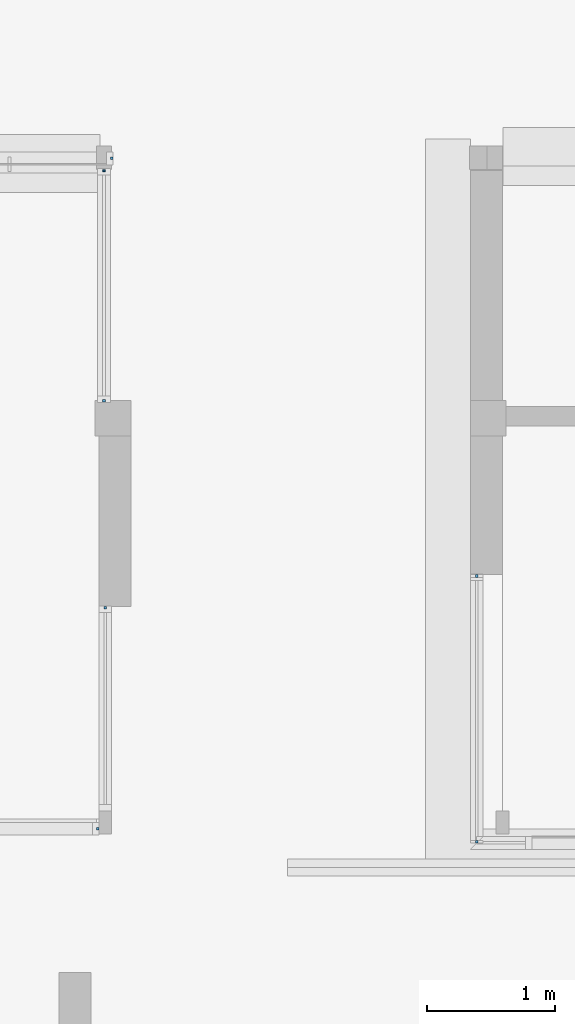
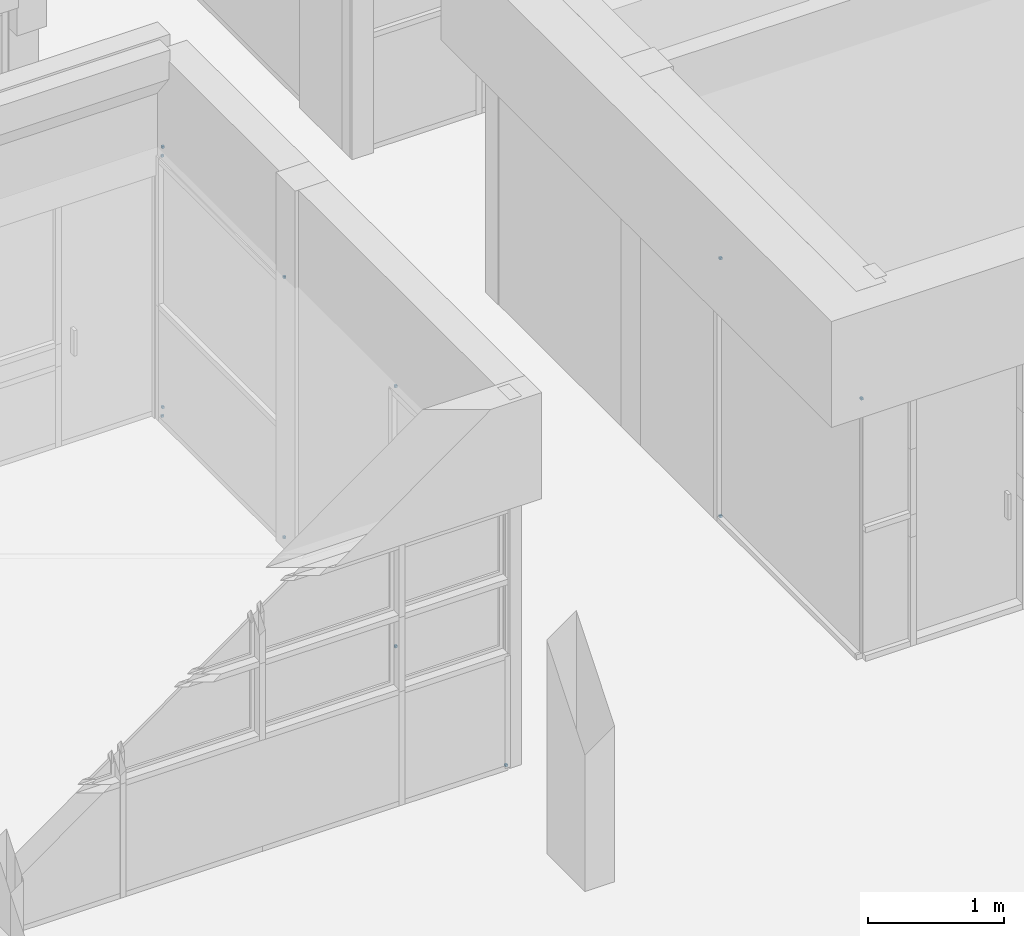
# One storey, part 55 of 117: 12 plates, 5 elements without a shape of their own.
"""IFC4 building model written with IfcOpenShell, lengths in metres."""

from ifc_helpers import new_model, entity, si_unit, converted_unit, derived_unit, direction, frame, origin, place, context, subcontext, project, spatial, indexed_curve, outline, extrude, source, transform, mapped, material, type_object, type_shapes, element, aggregate, save


model = new_model("IFC4")

# Units and contexts
model_context = context("Model", 3, precision=1e-05, world=origin(), true_north=direction((6.123031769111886e-17, 1.0)))
body_context = subcontext(model_context, "Body", "Model", "MODEL_VIEW")
ifc_project = project(units=[si_unit("LENGTHUNIT", "METRE"), si_unit("AREAUNIT", "SQUARE_METRE"), si_unit("VOLUMEUNIT", "CUBIC_METRE"), converted_unit("PLANEANGLEUNIT", "DEGREE", entity("IfcRatioMeasure", 0.017453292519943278), si_unit("PLANEANGLEUNIT", "RADIAN"), dimensions=[0, 0, 0, 0, 0, 0, 0]), si_unit("MASSUNIT", "GRAM", prefix="KILO"), derived_unit("MASSDENSITYUNIT", [(si_unit("MASSUNIT", "GRAM", prefix="KILO"), 1), (si_unit("LENGTHUNIT", "METRE"), -3)]), derived_unit("MOMENTOFINERTIAUNIT", [(si_unit("LENGTHUNIT", "METRE"), 4)]), si_unit("TIMEUNIT", "SECOND"), si_unit("FREQUENCYUNIT", "HERTZ"), si_unit("THERMODYNAMICTEMPERATUREUNIT", "DEGREE_CELSIUS"), derived_unit("THERMALTRANSMITTANCEUNIT", [(si_unit("MASSUNIT", "GRAM", prefix="KILO"), 1), (si_unit("THERMODYNAMICTEMPERATUREUNIT", "KELVIN"), -1), (si_unit("TIMEUNIT", "SECOND"), -3)]), derived_unit("VOLUMETRICFLOWRATEUNIT", [(si_unit("LENGTHUNIT", "METRE"), 3), (si_unit("TIMEUNIT", "SECOND"), -1)]), derived_unit("MASSFLOWRATEUNIT", [(si_unit("MASSUNIT", "GRAM", prefix="KILO"), 1), (si_unit("TIMEUNIT", "SECOND"), -1)]), derived_unit("ROTATIONALFREQUENCYUNIT", [(si_unit("TIMEUNIT", "SECOND"), -1)]), si_unit("ELECTRICCURRENTUNIT", "AMPERE"), si_unit("ELECTRICVOLTAGEUNIT", "VOLT"), si_unit("POWERUNIT", "WATT"), si_unit("FORCEUNIT", "NEWTON", prefix="KILO"), si_unit("ILLUMINANCEUNIT", "LUX"), si_unit("LUMINOUSFLUXUNIT", "LUMEN"), si_unit("LUMINOUSINTENSITYUNIT", "CANDELA"), derived_unit("USERDEFINED", [(si_unit("MASSUNIT", "GRAM", prefix="KILO"), -1), (si_unit("LENGTHUNIT", "METRE"), -2), (si_unit("TIMEUNIT", "SECOND"), 3), (si_unit("LUMINOUSFLUXUNIT", "LUMEN"), 1)]), derived_unit("SOUNDPOWERUNIT", [(si_unit("MASSUNIT", "GRAM", prefix="KILO"), 1), (si_unit("LENGTHUNIT", "METRE"), 2), (si_unit("TIMEUNIT", "SECOND"), -3)]), derived_unit("SOUNDPRESSUREUNIT", [(si_unit("MASSUNIT", "GRAM", prefix="KILO"), 1), (si_unit("LENGTHUNIT", "METRE"), -1), (si_unit("TIMEUNIT", "SECOND"), -2)]), derived_unit("LINEARVELOCITYUNIT", [(si_unit("LENGTHUNIT", "METRE"), 1), (si_unit("TIMEUNIT", "SECOND"), -1)]), si_unit("PRESSUREUNIT", "PASCAL"), derived_unit("USERDEFINED", [(si_unit("LENGTHUNIT", "METRE"), -2), (si_unit("MASSUNIT", "GRAM", prefix="KILO"), 1), (si_unit("TIMEUNIT", "SECOND"), -2)]), derived_unit("LINEARFORCEUNIT", [(si_unit("MASSUNIT", "GRAM", prefix="KILO"), 1), (si_unit("LENGTHUNIT", "METRE"), 1), (si_unit("TIMEUNIT", "SECOND"), -2), (si_unit("LENGTHUNIT", "METRE"), -1)]), derived_unit("PLANARFORCEUNIT", [(si_unit("MASSUNIT", "GRAM", prefix="KILO"), 1), (si_unit("LENGTHUNIT", "METRE"), 1), (si_unit("TIMEUNIT", "SECOND"), -2), (si_unit("LENGTHUNIT", "METRE"), -2)])], contexts=[model_context])

# Site, building, storey
site_placement = place(None, origin())
site = spatial("IfcSite", under=ifc_project, at=site_placement, Name="Superficie", CompositionType="ELEMENT")
building_placement = place(site_placement, origin())
building = spatial("IfcBuilding", under=site, at=building_placement, CompositionType="ELEMENT")
storey_placement = place(building_placement, origin())
storey = spatial("IfcBuildingStorey", under=building, at=storey_placement, Name="Nivel 0", CompositionType="ELEMENT", Elevation=0.0)

# Curtain wall, plates
curtain_wall_type = type_object("IfcCurtainWallType", Name="Muro cortina:Muro cortina - simple", PredefinedType="NOTDEFINED")
curtain_wall_1_placement = place(storey_placement, origin())
curtain_wall_1 = element("IfcCurtainWall", 1, at=curtain_wall_1_placement, inside=storey, type_object=curtain_wall_type, Name="Muro cortina:Muro cortina - simple", ObjectType="Muro cortina:Muro cortina - simple", PredefinedType="NOTDEFINED")
ifc_material = material(Name="Cristal", Category="Vidrio")
plate_type_1 = type_object("IfcPlateType", Name="Panel de sistema:Acristalado", PredefinedType="CURTAIN_PANEL", material=ifc_material)
shared_shape_1 = source(origin(), body_context, "Body", "SweptSolid", [
    extrude(outline(indexed_curve([(-0.01, -0.009999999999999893), (0.01, -0.009999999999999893), (0.01, 0.009999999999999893), (-0.01, 0.009999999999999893), (-0.01, -0.009999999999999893)], self_intersect=False)), frame((0.0, 0.0, 0.0), z_axis=(0.0, 0.0, 1.0), x_axis=(0.0, 1.0, 0.0)), (0.0, 0.0, 1.0), 0.02000000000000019),
])
type_shapes(plate_type_1, [shared_shape_1])
plate_1_placement = place(curtain_wall_1_placement, frame((-15.44820098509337, 0.3158292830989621, 0.0), z_axis=(0.0, 0.0, 1.0), x_axis=(0.0, -1.0, 0.0)))
plate_1 = element("IfcPlate", 2, at=plate_1_placement, type_object=plate_type_1, material=ifc_material, Name="Panel de sistema:Acristalado", ObjectType="Panel de sistema:Acristalado", PredefinedType="CURTAIN_PANEL", context=body_context, shape_type="MappedRepresentation", body=[
    mapped(shared_shape_1, transform((0.0, 0.0, 0.0), scale=1.0)),
])
plate_2_placement = place(curtain_wall_1_placement, frame((-15.44820098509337, 0.3158292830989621, 2.3099999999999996), z_axis=(0.0, 0.0, 1.0), x_axis=(0.0, -1.0, 0.0)))
plate_2 = element("IfcPlate", 3, at=plate_2_placement, type_object=plate_type_1, material=ifc_material, Name="Panel de sistema:Acristalado", ObjectType="Panel de sistema:Acristalado", PredefinedType="CURTAIN_PANEL", context=body_context, shape_type="MappedRepresentation", body=[
    mapped(shared_shape_1, transform((0.0, 0.0, 0.0), scale=1.0)),
])
plate_3_placement = place(curtain_wall_1_placement, frame((-15.448200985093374, -1.754170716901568, 2.3099999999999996), z_axis=(0.0, 0.0, 1.0), x_axis=(0.0, -1.0, 0.0)))
plate_3 = element("IfcPlate", 4, at=plate_3_placement, type_object=plate_type_1, material=ifc_material, Name="Panel de sistema:Acristalado", ObjectType="Panel de sistema:Acristalado", PredefinedType="CURTAIN_PANEL", context=body_context, shape_type="MappedRepresentation", body=[
    mapped(shared_shape_1, transform((0.0, 0.0, 0.0), scale=1.0)),
])
aggregate(curtain_wall_1, [plate_1, plate_2, plate_3])

curtain_wall_2_placement = place(storey_placement, origin())
curtain_wall_2 = element("IfcCurtainWall", 5, at=curtain_wall_2_placement, inside=storey, type_object=curtain_wall_type, Name="Muro cortina:Muro cortina - simple", ObjectType="Muro cortina:Muro cortina - simple", PredefinedType="NOTDEFINED")
plate_4_placement = place(curtain_wall_2_placement, frame((-18.34320098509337, 0.06711203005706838, 0.0), z_axis=(0.0, 0.0, 1.0), x_axis=(0.0, 1.0, 0.0)))
plate_4 = element("IfcPlate", 6, at=plate_4_placement, type_object=plate_type_1, material=ifc_material, Name="Panel de sistema:Acristalado", ObjectType="Panel de sistema:Acristalado", PredefinedType="CURTAIN_PANEL", context=body_context, shape_type="MappedRepresentation", body=[
    mapped(shared_shape_1, transform((0.0, 0.0, 0.0), scale=1.0)),
])
plate_5_placement = place(curtain_wall_2_placement, frame((-18.34320098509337, 0.06711203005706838, 2.33), z_axis=(0.0, 0.0, 1.0), x_axis=(0.0, 1.0, 0.0)))
plate_5 = element("IfcPlate", 7, at=plate_5_placement, type_object=plate_type_1, material=ifc_material, Name="Panel de sistema:Acristalado", ObjectType="Panel de sistema:Acristalado", PredefinedType="CURTAIN_PANEL", context=body_context, shape_type="MappedRepresentation", body=[
    mapped(shared_shape_1, transform((0.0, 0.0, 0.0), scale=1.0)),
])
aggregate(curtain_wall_2, [plate_4, plate_5])

curtain_wall_3_placement = place(storey_placement, origin())
curtain_wall_3 = element("IfcCurtainWall", 8, at=curtain_wall_3_placement, inside=storey, type_object=curtain_wall_type, Name="Muro cortina:Muro cortina - simple", ObjectType="Muro cortina:Muro cortina - simple", PredefinedType="NOTDEFINED")
plate_6_placement = place(curtain_wall_3_placement, frame((-18.353200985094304, 1.6828457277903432, 0.0), z_axis=(0.0, 0.0, 1.0), x_axis=(0.0, -1.0, 0.0)))
plate_6 = element("IfcPlate", 9, at=plate_6_placement, type_object=plate_type_1, material=ifc_material, Name="Panel de sistema:Acristalado", ObjectType="Panel de sistema:Acristalado", PredefinedType="CURTAIN_PANEL", context=body_context, shape_type="MappedRepresentation", body=[
    mapped(shared_shape_1, transform((0.0, 0.0, 0.0), scale=1.0)),
])
plate_7_placement = place(curtain_wall_3_placement, frame((-18.353200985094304, 1.6828457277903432, 2.33), z_axis=(0.0, 0.0, 1.0), x_axis=(0.0, -1.0, 0.0)))
plate_7 = element("IfcPlate", 10, at=plate_7_placement, type_object=plate_type_1, material=ifc_material, Name="Panel de sistema:Acristalado", ObjectType="Panel de sistema:Acristalado", PredefinedType="CURTAIN_PANEL", context=body_context, shape_type="MappedRepresentation", body=[
    mapped(shared_shape_1, transform((0.0, 0.0, 0.0), scale=1.0)),
])

curtain_wall_4_placement = place(storey_placement, origin())
curtain_wall_4 = element("IfcCurtainWall", 11, at=curtain_wall_4_placement, inside=storey, type_object=curtain_wall_type, Name="Muro cortina:Muro cortina - simple", ObjectType="Muro cortina:Muro cortina - simple", PredefinedType="NOTDEFINED")
plate_8_placement = place(curtain_wall_4_placement, frame((-18.293200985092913, 3.570829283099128, 0.0), z_axis=(0.0, 0.0, 1.0), x_axis=(-1.0, 0.0, 0.0)))
plate_8 = element("IfcPlate", 12, at=plate_8_placement, type_object=plate_type_1, material=ifc_material, Name="Panel de sistema:Acristalado", ObjectType="Panel de sistema:Acristalado", PredefinedType="CURTAIN_PANEL", context=body_context, shape_type="MappedRepresentation", body=[
    mapped(shared_shape_1, transform((0.0, 0.0, 0.0), scale=1.0)),
])
plate_9_placement = place(curtain_wall_4_placement, frame((-18.293200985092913, 3.570829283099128, 2.3299999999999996), z_axis=(0.0, 0.0, 1.0), x_axis=(-1.0, 0.0, 0.0)))
plate_9 = element("IfcPlate", 13, at=plate_9_placement, type_object=plate_type_1, material=ifc_material, Name="Panel de sistema:Acristalado", ObjectType="Panel de sistema:Acristalado", PredefinedType="CURTAIN_PANEL", context=body_context, shape_type="MappedRepresentation", body=[
    mapped(shared_shape_1, transform((0.0, 0.0, 0.0), scale=1.0)),
])
aggregate(curtain_wall_4, [plate_8, plate_9])

# Curtain wall, plate
curtain_wall_5_placement = place(storey_placement, origin())
curtain_wall_5 = element("IfcCurtainWall", 14, at=curtain_wall_5_placement, inside=storey, type_object=curtain_wall_type, Name="Muro cortina:Muro cortina - simple", ObjectType="Muro cortina:Muro cortina - simple", PredefinedType="NOTDEFINED")
plate_type_2 = type_object("IfcPlateType", Name="Panel de sistema:Acristalado", PredefinedType="CURTAIN_PANEL", material=ifc_material)
shared_shape_2 = source(origin(), body_context, "Body", "SweptSolid", [
    extrude(outline(indexed_curve([(-0.01, -0.010902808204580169), (0.01, -0.010902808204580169), (0.01, 0.010902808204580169), (-0.01, 0.010902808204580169), (-0.01, -0.010902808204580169)], self_intersect=False)), frame((0.0, 0.0, 0.0), z_axis=(0.0, 0.0, 1.0), x_axis=(0.0, 1.0, 0.0)), (0.0, 0.0, 1.0), 0.020000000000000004),
])
type_shapes(plate_type_2, [shared_shape_2])
plate_10_placement = place(curtain_wall_5_placement, frame((-18.40229817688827, -1.65417071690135, 0.0), z_axis=(0.0, 0.0, 1.0), x_axis=(-1.0, 0.0, 0.0)))
plate_10 = element("IfcPlate", 15, at=plate_10_placement, type_object=plate_type_2, material=ifc_material, Name="Panel de sistema:Acristalado", ObjectType="Panel de sistema:Acristalado", PredefinedType="CURTAIN_PANEL", context=body_context, shape_type="MappedRepresentation", body=[
    mapped(shared_shape_2, transform((0.0, 0.0, 0.0), scale=1.0)),
])
aggregate(curtain_wall_5, [plate_10])

# Plate
plate_type_3 = type_object("IfcPlateType", Name="Panel de sistema:Acristalado", PredefinedType="CURTAIN_PANEL", material=ifc_material)
shared_shape_3 = source(origin(), body_context, "Body", "SweptSolid", [
    extrude(outline(indexed_curve([(-0.01, -0.0075000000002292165), (0.01, -0.0075000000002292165), (0.01, 0.0075000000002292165), (-0.01, 0.0075000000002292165), (-0.01, -0.0075000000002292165)], self_intersect=False)), frame((0.0, 0.0, 0.0), z_axis=(0.0, 0.0, 1.0), x_axis=(0.0, 1.0, 0.0)), (0.0, 0.0, 1.0), 0.020000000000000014),
])
type_shapes(plate_type_3, [shared_shape_3])
plate_11_placement = place(curtain_wall_3_placement, frame((-18.3532009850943, 3.4733292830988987, 0.0), z_axis=(0.0, 0.0, 1.0), x_axis=(0.0, -1.0, 0.0)))
plate_11 = element("IfcPlate", 16, at=plate_11_placement, type_object=plate_type_3, material=ifc_material, Name="Panel de sistema:Acristalado", ObjectType="Panel de sistema:Acristalado", PredefinedType="CURTAIN_PANEL", context=body_context, shape_type="MappedRepresentation", body=[
    mapped(shared_shape_3, transform((0.0, 0.0, 0.0), scale=1.0)),
])

plate_12_placement = place(curtain_wall_3_placement, frame((-18.3532009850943, 3.4733292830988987, 2.33), z_axis=(0.0, 0.0, 1.0), x_axis=(0.0, -1.0, 0.0)))
plate_12 = element("IfcPlate", 17, at=plate_12_placement, type_object=plate_type_3, material=ifc_material, Name="Panel de sistema:Acristalado", ObjectType="Panel de sistema:Acristalado", PredefinedType="CURTAIN_PANEL", context=body_context, shape_type="MappedRepresentation", body=[
    mapped(shared_shape_3, transform((0.0, 0.0, 0.0), scale=1.0)),
])

aggregate(curtain_wall_3, [plate_11, plate_6, plate_12, plate_7])

save(model, "model.ifc")
